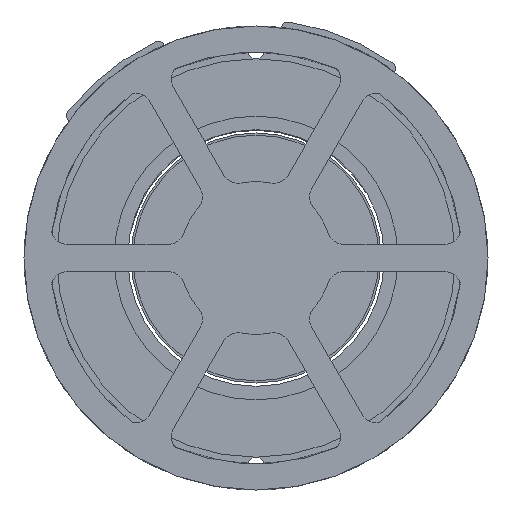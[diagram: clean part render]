
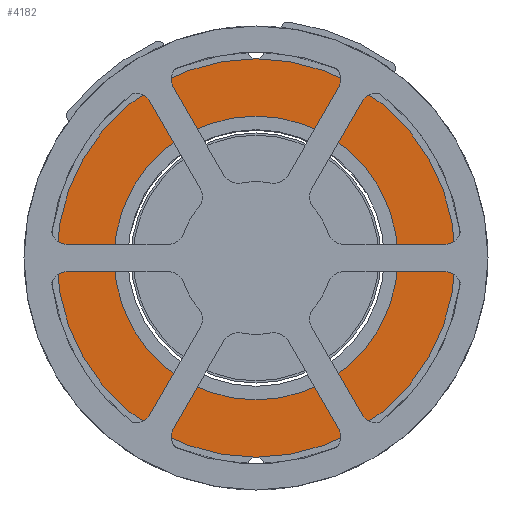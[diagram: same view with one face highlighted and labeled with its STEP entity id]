
A CAD part, front view. The second image highlights one B-rep face of the part: STEP entity #4182.
In plain terms, the highlighted planar face has unit normal (0, -1, 0).
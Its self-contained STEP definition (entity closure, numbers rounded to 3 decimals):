
#4037=FACE_BOUND('',#5967,.T.);
#4038=FACE_BOUND('',#5968,.T.);
#4182=ADVANCED_FACE('',(#4037,#4038),#4918,.F.);
#4918=PLANE('',#14146);
#5967=EDGE_LOOP('',(#6869,#6870));
#5968=EDGE_LOOP('',(#6871,#6872));
#6869=ORIENTED_EDGE('',*,*,#11643,.F.);
#6870=ORIENTED_EDGE('',*,*,#11638,.F.);
#6871=ORIENTED_EDGE('',*,*,#11645,.F.);
#6872=ORIENTED_EDGE('',*,*,#11646,.F.);
#10461=VERTEX_POINT('',#19676);
#10462=VERTEX_POINT('',#19678);
#10465=VERTEX_POINT('',#19692);
#10466=VERTEX_POINT('',#19693);
#11638=EDGE_CURVE('',#10461,#10462,#13440,.T.);
#11643=EDGE_CURVE('',#10462,#10461,#13442,.T.);
#11645=EDGE_CURVE('',#10465,#10466,#13444,.T.);
#11646=EDGE_CURVE('',#10466,#10465,#13445,.T.);
#13440=CIRCLE('',#14136,36.5);
#13442=CIRCLE('',#14140,36.5);
#13444=CIRCLE('',#14144,26.);
#13445=CIRCLE('',#14145,26.);
#14136=AXIS2_PLACEMENT_3D('',#19677,#15677,#15678);
#14140=AXIS2_PLACEMENT_3D('',#19687,#15688,#15689);
#14144=AXIS2_PLACEMENT_3D('',#19691,#15696,#15697);
#14145=AXIS2_PLACEMENT_3D('',#19694,#15698,#15699);
#14146=AXIS2_PLACEMENT_3D('',#19695,#15700,#15701);
#15677=DIRECTION('',(0.,1.,0.));
#15678=DIRECTION('',(1.,0.,0.));
#15688=DIRECTION('',(0.,1.,0.));
#15689=DIRECTION('',(-1.,0.,0.));
#15696=DIRECTION('',(0.,-1.,0.));
#15697=DIRECTION('',(-1.,0.,0.));
#15698=DIRECTION('',(0.,-1.,0.));
#15699=DIRECTION('',(1.,0.,0.));
#15700=DIRECTION('',(0.,1.,0.));
#15701=DIRECTION('',(1.,0.,0.));
#19676=CARTESIAN_POINT('',(36.5,-4.,0.));
#19677=CARTESIAN_POINT('',(0.,-4.,0.));
#19678=CARTESIAN_POINT('',(-36.5,-4.,0.));
#19687=CARTESIAN_POINT('',(0.,-4.,0.));
#19691=CARTESIAN_POINT('',(0.,-4.,0.));
#19692=CARTESIAN_POINT('',(-26.,-4.,0.));
#19693=CARTESIAN_POINT('',(26.,-4.,0.));
#19694=CARTESIAN_POINT('',(0.,-4.,0.));
#19695=CARTESIAN_POINT('',(0.,-4.,0.));
